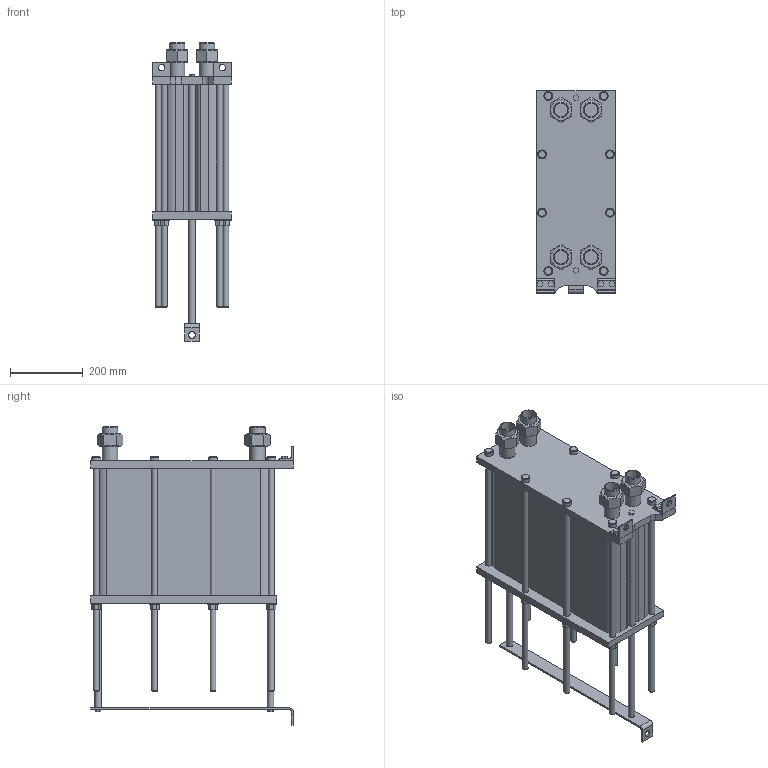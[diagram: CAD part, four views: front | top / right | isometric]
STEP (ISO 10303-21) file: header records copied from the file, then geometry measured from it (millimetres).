
FILE_DESCRIPTION(/* description */ (''),/* implementation_level */ '2;1');
FILE_NAME(/* name */ 'C:\Users\zhuro\Desktop\ENCO\TO\ЭН-004\ЭН-0,5-004-113-1.stp',/* time_stamp */ '2022-06-06T10:53:48+03:00',/* author */ ('zhuro'),/* organization */ (''),/* preprocessor_version */ 'ST-DEVELOPER v18.1',/* originating_system */ 'Autodesk Inventor 2022',/* authorisation */ '');
FILE_SCHEMA (('AUTOMOTIVE_DESIGN { 1 0 10303 214 3 1 1 }'));
Length unit declared in the file: millimetre
Products named in the file (1): ЭН-0,5-004-113-1
Bounding box: 216 x 555 x 819.4 mm (x, y, z)
Volume: 32071331.7 mm3; surface area: 1717092.3 mm2
Topology: 40 solids, 40 shells, 403 faces, 865 edges, 574 vertices
Faces by surface type: plane 272, cylinder 103, cone 28
Full cylindrical faces by diameter (mm): 10 x4, 16 x16, 18 x29, 20 x2, 24 x8, 28 x8, 36.3 x5, 42.3 x9
Entity records: 11137 total; most frequent: CARTESIAN_POINT 1939, DIRECTION 1879, ORIENTED_EDGE 1730, EDGE_CURVE 865, AXIS2_PLACEMENT_3D 658, VERTEX_POINT 574, LINE 563, VECTOR 563
